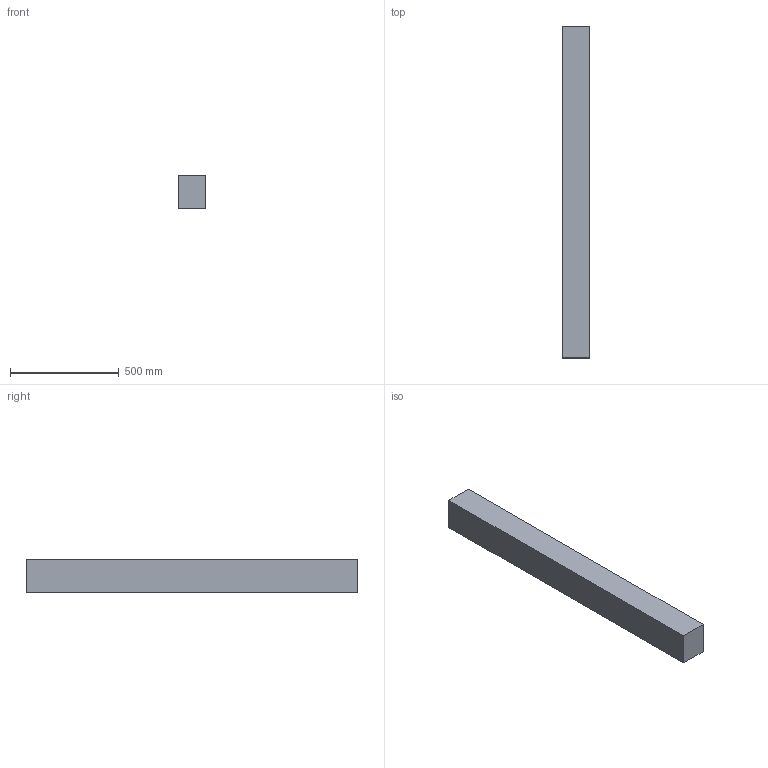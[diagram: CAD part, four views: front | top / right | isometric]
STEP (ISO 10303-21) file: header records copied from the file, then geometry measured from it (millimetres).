
FILE_DESCRIPTION(/* description */ (''),/* implementation_level */ '2;1');
FILE_NAME(/* name */ '5x6x60',/* time_stamp */ '2024-09-20T11:46:15-05:00',/* author */ (''),/* organization */ (''),/* preprocessor_version */ 'ST-DEVELOPER v19.2',/* originating_system */ 'Rhino 8.5',/* authorisation */ '');
FILE_SCHEMA (('CONFIG_CONTROL_DESIGN'));
Length unit declared in the file: inch
Products named in the file (1): Document
Bounding box: 127 x 1524 x 152.4 mm (x, y, z)
Volume: 29496715.2 mm3; surface area: 890320.8 mm2
Topology: 1 solids, 1 shells, 6 faces, 12 edges, 8 vertices
Faces by surface type: plane 6
Entity records: 226 total; most frequent: CARTESIAN_POINT 40, ORIENTED_EDGE 24, EDGE_CURVE 12, B_SPLINE_CURVE_WITH_KNOTS 12, DIRECTION 10, VERTEX_POINT 8, AXIS2_PLACEMENT_3D 8, ORGANIZATION 7
